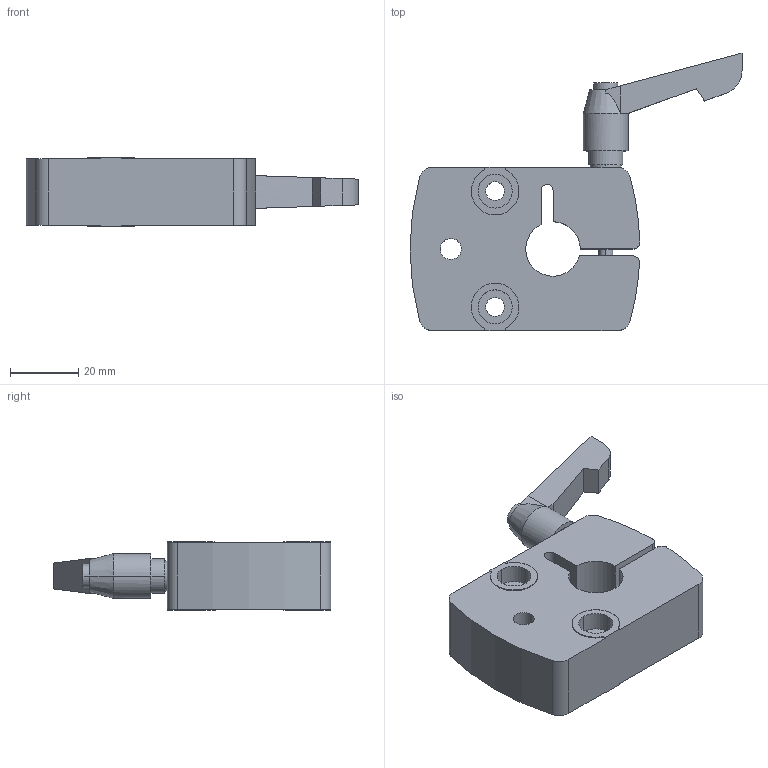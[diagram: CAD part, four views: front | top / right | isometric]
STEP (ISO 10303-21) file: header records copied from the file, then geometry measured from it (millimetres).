
FILE_DESCRIPTION (( 'STEP AP203' ), '1' );
FILE_NAME ('SKPZN09-16.step', '2025-05-15T06:19:27', ( '' ), ( '' ), 'SwSTEP 2.0', 'SolidWorks 2023', '' );
FILE_SCHEMA (( 'CONFIG_CONTROL_DESIGN' ));
Length unit declared in the file: millimetre
Products named in the file (3): SKPZN09-16_02; SKPZN09-16; SKPZN09-16_01
Assembly tree (2 placements, depth 2):
  SKPZN09-16
    SKPZN09-16_01
    SKPZN09-16_02
Bounding box: 97.5 x 81.52 x 20 mm (x, y, z)
Volume: 57879.3 mm3; surface area: 15674.2 mm2
Topology: 2 solids, 2 shells, 98 faces, 248 edges, 161 vertices
Faces by surface type: cylinder 48, plane 45, cone 5
Entity records: 3320 total; most frequent: CARTESIAN_POINT 562, DIRECTION 549, ORIENTED_EDGE 496, EDGE_CURVE 248, AXIS2_PLACEMENT_3D 206, VERTEX_POINT 161, VECTOR 137, LINE 137
